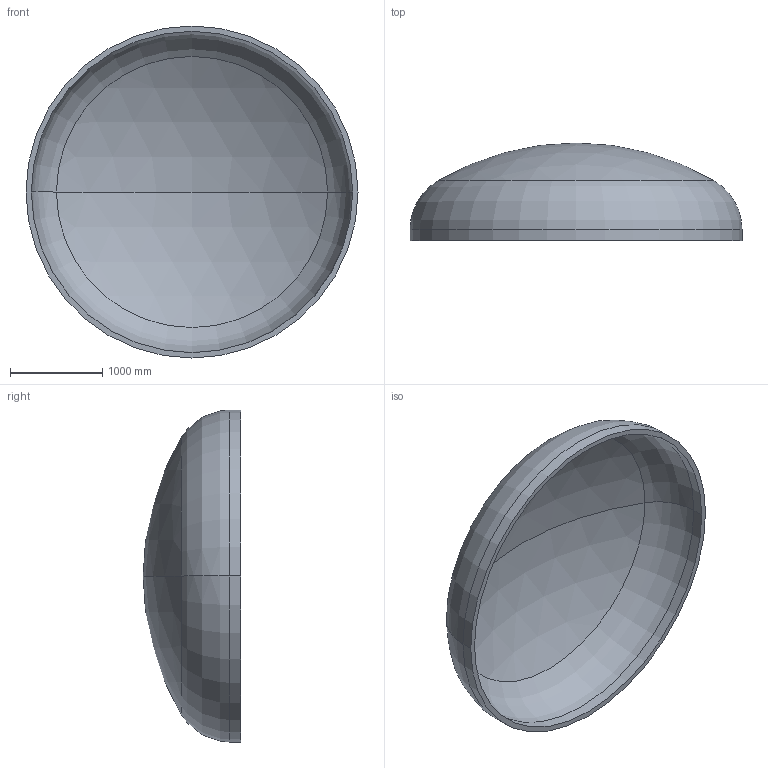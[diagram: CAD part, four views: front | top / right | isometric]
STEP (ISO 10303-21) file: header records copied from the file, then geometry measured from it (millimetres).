
FILE_DESCRIPTION (( 'STEP AP203' ), '1' );
FILE_NAME ('DIN 28013 Korbbogenform_-_Boden DIN 28013 - 3600 x 120 - I - s=58.step', '2016-07-01T20:34:12', ( '' ), ( '' ), 'SwSTEP 2.0', 'SolidWorks 2013', '' );
FILE_SCHEMA (( 'CONFIG_CONTROL_DESIGN' ));
Length unit declared in the file: millimetre
Products named in the file (1): DIN 28013 Korbbogenform_-_Boden DIN 28013 - 3600 x 120 - I - s=58
Bounding box: 3600 x 1058.84 x 3600 mm (x, y, z)
Volume: 878067524.5 mm3; surface area: 30930621.6 mm2
Topology: 1 solids, 1 shells, 13 faces, 24 edges, 14 vertices
Faces by surface type: torus 4, cylinder 4, sphere 4, plane 1
Entity records: 407 total; most frequent: DIRECTION 72, CARTESIAN_POINT 52, ORIENTED_EDGE 48, AXIS2_PLACEMENT_3D 34, EDGE_CURVE 24, CIRCLE 20, VERTEX_POINT 14, EDGE_LOOP 14
